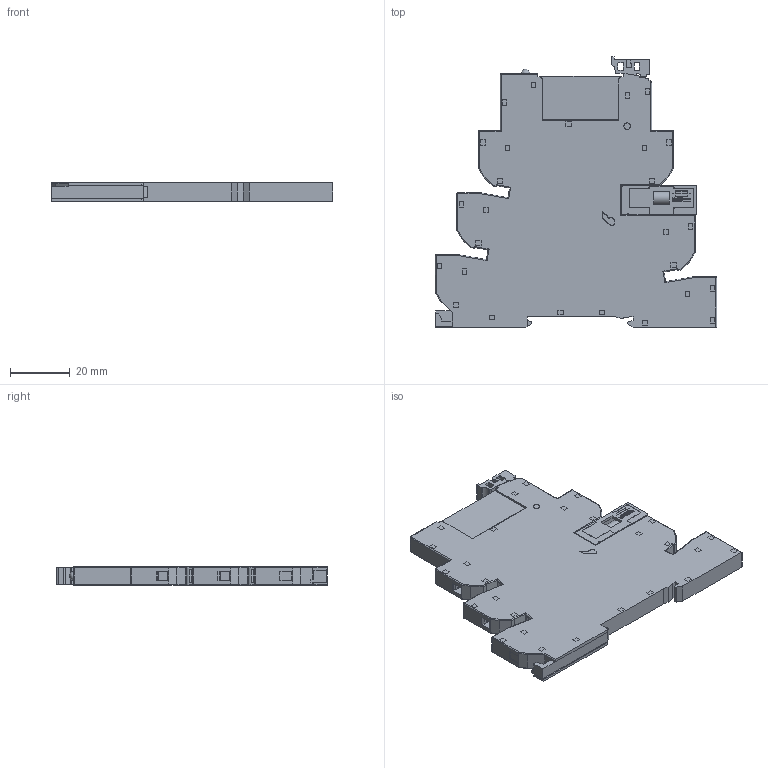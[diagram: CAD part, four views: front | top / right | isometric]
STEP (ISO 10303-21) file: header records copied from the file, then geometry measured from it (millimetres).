
FILE_DESCRIPTION(('STEP AP214'),'2;1');
FILE_NAME('3930=3481+9363+09363.stp','2010-10-02T09:40:37',(''),(''),'2007.1.106','THINKDESIGN','');
FILE_SCHEMA(('AUTOMOTIVE_DESIGN'));
Products named in the file (1): None
Bounding box: 94.25 x 90.7 x 6.2 mm (x, y, z)
Surface area: 19624.6 mm2 (no closed solid volume)
Topology: 0 solids, 0 shells, 988 faces, 6196 edges, 6178 vertices
Faces by surface type: plane 728, cylinder 183, bspline 77
Full cylindrical faces by diameter (mm): 1.5 x5, 2.2 x2, 2.798 x5, 3.9 x5, 4.299 x5, 4.4 x1
Entity records: 65238 total; most frequent: CARTESIAN_POINT 21710, DIRECTION 7625, COMPOSITE_CURVE_SEGMENT 6181, TRIMMED_CURVE 5487, VECTOR 5175, LINE 5175, AXIS2_PLACEMENT_3D 1225, OUTER_BOUNDARY_CURVE 988
